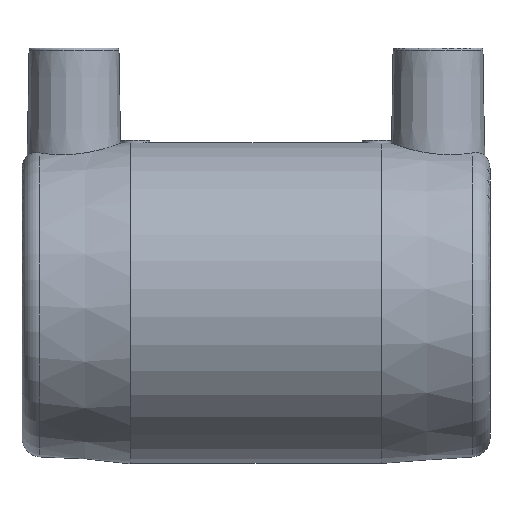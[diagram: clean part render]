
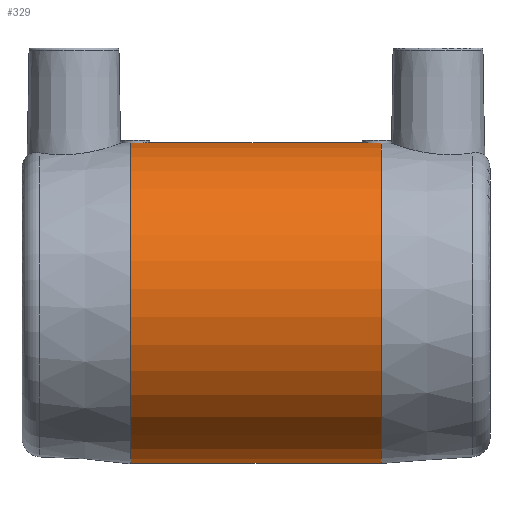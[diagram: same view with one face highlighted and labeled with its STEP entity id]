
A CAD part, front view. The second image highlights one B-rep face of the part: STEP entity #329.
In plain terms, the highlighted cylindrical face has radius 34 mm (diameter 68 mm), a full revolution.
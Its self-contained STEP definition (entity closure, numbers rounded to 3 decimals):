
#21=CYLINDRICAL_SURFACE('',#378,34.);
#48=B_SPLINE_CURVE_WITH_KNOTS('',3,(#615,#616,#617,#618,#619,#620,#621),
 .UNSPECIFIED.,.F.,.F.,(4,1,1,1,4),(0.,0.003,0.006,
0.008,0.011),.UNSPECIFIED.);
#49=B_SPLINE_CURVE_WITH_KNOTS('',3,(#625,#626,#627,#628,#629,#630,#631),
 .UNSPECIFIED.,.F.,.F.,(4,1,1,1,4),(0.,0.003,0.006,
0.008,0.011),.UNSPECIFIED.);
#74=ORIENTED_EDGE('',*,*,#140,.T.);
#75=ORIENTED_EDGE('',*,*,#141,.T.);
#76=ORIENTED_EDGE('',*,*,#142,.T.);
#77=ORIENTED_EDGE('',*,*,#143,.T.);
#140=EDGE_CURVE('',#174,#175,#200,.F.);
#141=EDGE_CURVE('',#175,#174,#48,.T.);
#142=EDGE_CURVE('',#176,#177,#201,.T.);
#143=EDGE_CURVE('',#177,#176,#49,.T.);
#174=VERTEX_POINT('',#613);
#175=VERTEX_POINT('',#614);
#176=VERTEX_POINT('',#623);
#177=VERTEX_POINT('',#624);
#200=CIRCLE('',#379,34.);
#201=CIRCLE('',#380,34.);
#230=EDGE_LOOP('',(#74,#75));
#231=EDGE_LOOP('',(#76,#77));
#280=FACE_BOUND('',#230,.T.);
#281=FACE_BOUND('',#231,.T.);
#329=ADVANCED_FACE('',(#280,#281),#21,.T.);
#378=AXIS2_PLACEMENT_3D('',#611,#447,#448);
#379=AXIS2_PLACEMENT_3D('',#612,#449,#450);
#380=AXIS2_PLACEMENT_3D('',#622,#451,#452);
#447=DIRECTION('',(-1.,0.,0.));
#448=DIRECTION('',(0.,0.,1.));
#449=DIRECTION('',(1.,0.,0.));
#450=DIRECTION('',(0.,0.,-1.));
#451=DIRECTION('',(1.,0.,0.));
#452=DIRECTION('',(0.,0.,-1.));
#611=CARTESIAN_POINT('',(-60.,0.,0.));
#612=CARTESIAN_POINT('',(26.461,0.,0.));
#613=CARTESIAN_POINT('',(26.461,2.842,33.881));
#614=CARTESIAN_POINT('',(26.461,-2.842,33.881));
#615=CARTESIAN_POINT('',(26.461,-2.842,33.881));
#616=CARTESIAN_POINT('',(25.554,-3.149,33.855));
#617=CARTESIAN_POINT('',(23.477,-2.83,33.897));
#618=CARTESIAN_POINT('',(22.013,-0.002,34.051));
#619=CARTESIAN_POINT('',(23.473,2.828,33.898));
#620=CARTESIAN_POINT('',(25.554,3.149,33.855));
#621=CARTESIAN_POINT('',(26.461,2.842,33.881));
#622=CARTESIAN_POINT('',(-26.461,0.,0.));
#623=CARTESIAN_POINT('',(-26.461,-2.842,33.881));
#624=CARTESIAN_POINT('',(-26.461,2.842,33.881));
#625=CARTESIAN_POINT('',(-26.461,2.842,33.881));
#626=CARTESIAN_POINT('',(-25.554,3.149,33.855));
#627=CARTESIAN_POINT('',(-23.477,2.83,33.897));
#628=CARTESIAN_POINT('',(-22.013,0.002,34.051));
#629=CARTESIAN_POINT('',(-23.473,-2.828,33.898));
#630=CARTESIAN_POINT('',(-25.554,-3.149,33.855));
#631=CARTESIAN_POINT('',(-26.461,-2.842,33.881));
